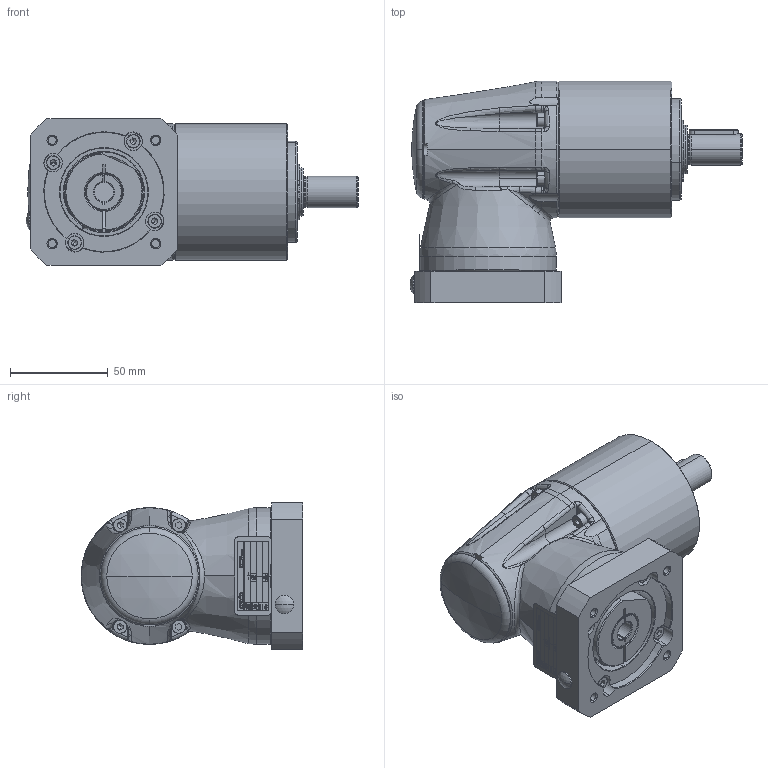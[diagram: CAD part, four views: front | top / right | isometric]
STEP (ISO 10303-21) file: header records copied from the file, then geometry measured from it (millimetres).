
FILE_DESCRIPTION (( 'STEP AP214' ), '1' );
FILE_NAME ('RL-010-0RR-FFF-MMM-S-LL-XXX-AXX-0000.STEP', '2019-10-30T15:04:08', ( '' ), ( '' ), 'SwSTEP 2.0', 'SolidWorks 2019', '' );
FILE_SCHEMA (( 'AUTOMOTIVE_DESIGN' ));
Length unit declared in the file: millimetre
Products named in the file (1): RL-010-0RR-FFF-MMM-S-LL-XXX-AXX-0000
Bounding box: 169.89 x 113.5 x 75 mm (x, y, z)
Surface area: 72005.3 mm2 (no closed solid volume)
Topology: 0 solids, 84 shells, 554 faces, 2710 edges, 2207 vertices
Faces by surface type: plane 190, cylinder 142, cone 90, bspline 71, torus 57, sphere 4
Entity records: 44073 total; most frequent: CARTESIAN_POINT 18562, ORIENTED_EDGE 3691, DIRECTION 3329, EDGE_CURVE 2698, VERTEX_POINT 2207, VECTOR 1189, LINE 1189, AXIS2_PLACEMENT_3D 1070
